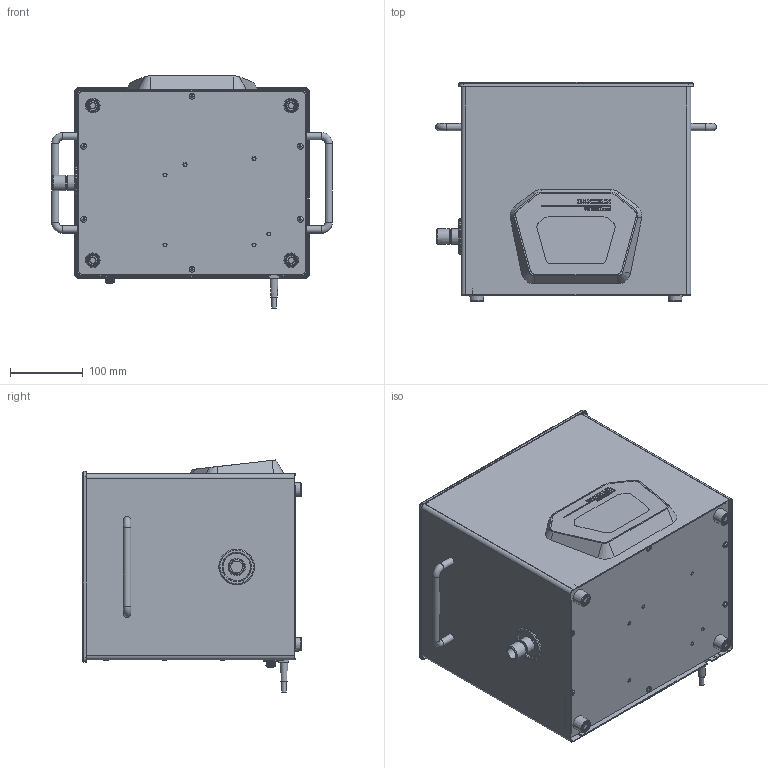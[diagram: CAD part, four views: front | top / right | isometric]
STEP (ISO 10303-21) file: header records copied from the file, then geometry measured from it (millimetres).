
FILE_DESCRIPTION (( 'STEP AP214' ), '1' );
FILE_NAME ('ST 510 H.STEP', '2026-07-30T06:39:33', ( '' ), ( '' ), 'SwSTEP 2.0', 'SolidWorks 2025', '' );
FILE_SCHEMA (( 'AUTOMOTIVE_DESIGN' ));
Length unit declared in the file: millimetre
Products named in the file (1): ST 510 H
Bounding box: 385 x 299.85 x 318.09 mm (x, y, z)
Surface area: 1019514.8 mm2 (no closed solid volume)
Topology: 0 solids, 86 shells, 444 faces, 2132 edges, 1780 vertices
Faces by surface type: plane 225, cylinder 95, cone 52, torus 47, bspline 17, sphere 8
Full cylindrical faces by diameter (mm): 5 x1, 6.5 x1, 8 x6, 9 x4, 10 x6, 13 x4, 14 x4, 16.1 x1, 18.5 x1, 21.3 x2, 49 x1
Entity records: 25392 total; most frequent: CARTESIAN_POINT 9510, DIRECTION 3025, ORIENTED_EDGE 2625, EDGE_CURVE 2055, VERTEX_POINT 1773, LINE 1041, VECTOR 1041, AXIS2_PLACEMENT_3D 992
